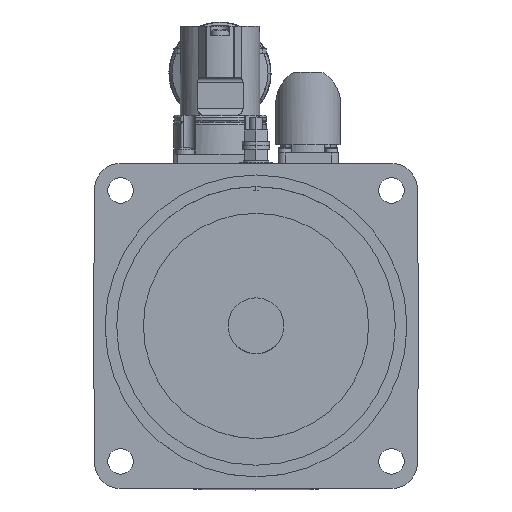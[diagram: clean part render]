
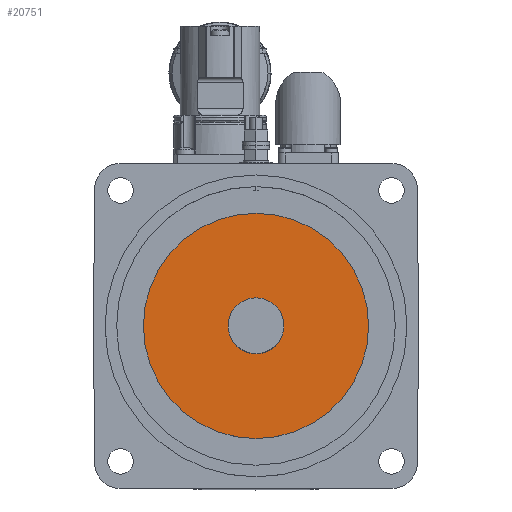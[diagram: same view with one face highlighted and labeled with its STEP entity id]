
A CAD part, top view. The second image highlights one B-rep face of the part: STEP entity #20751.
In plain terms, the highlighted planar face has unit normal (0, 0, 1).
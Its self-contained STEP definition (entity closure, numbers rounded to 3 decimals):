
#7037 = AXIS2_PLACEMENT_3D ( 'NONE', #10562, #10564, #10565 ) ;
#10562 = CARTESIAN_POINT ( 'NONE',  ( 0., 48.5, -4.5 ) ) ;
#10563 = PLANE ( 'NONE',  #7037 ) ;
#10564 = DIRECTION ( 'NONE',  ( 0., 0., -1. ) ) ;
#10565 = DIRECTION ( 'NONE',  ( -1., 0., 0. ) ) ;
#11317 = FACE_OUTER_BOUND ( 'NONE', #24307, .T. ) ;
#11322 = FACE_BOUND ( 'NONE', #24312, .T. ) ;
#13788 = AXIS2_PLACEMENT_3D ( 'NONE', #16351, #16359, #16360 ) ;
#13811 = AXIS2_PLACEMENT_3D ( 'NONE', #16445, #16446, #16447 ) ;
#13823 = AXIS2_PLACEMENT_3D ( 'NONE', #16498, #16499, #16500 ) ;
#13826 = AXIS2_PLACEMENT_3D ( 'NONE', #16511, #16512, #16513 ) ;
#15766 = CIRCLE ( 'NONE', #13788, 12. ) ;
#15805 = CIRCLE ( 'NONE', #13811, 48.5 ) ;
#15840 = CIRCLE ( 'NONE', #13823, 48.5 ) ;
#15849 = CIRCLE ( 'NONE', #13826, 12. ) ;
#16351 = CARTESIAN_POINT ( 'NONE',  ( 0., 0., -4.5 ) ) ;
#16359 = DIRECTION ( 'NONE',  ( 0., 0., 1. ) ) ;
#16360 = DIRECTION ( 'NONE',  ( -1., 0., 0. ) ) ;
#16445 = CARTESIAN_POINT ( 'NONE',  ( 0., 0., -4.5 ) ) ;
#16446 = DIRECTION ( 'NONE',  ( 0., 0., -1. ) ) ;
#16447 = DIRECTION ( 'NONE',  ( -1., 0., 0. ) ) ;
#16498 = CARTESIAN_POINT ( 'NONE',  ( 0., 0., -4.5 ) ) ;
#16499 = DIRECTION ( 'NONE',  ( 0., 0., -1. ) ) ;
#16500 = DIRECTION ( 'NONE',  ( -1., 0., 0. ) ) ;
#16511 = CARTESIAN_POINT ( 'NONE',  ( 0., 0., -4.5 ) ) ;
#16512 = DIRECTION ( 'NONE',  ( 0., 0., 1. ) ) ;
#16513 = DIRECTION ( 'NONE',  ( -1., 0., 0. ) ) ;
#18360 = VERTEX_POINT ( 'NONE', #28453 ) ;
#18362 = VERTEX_POINT ( 'NONE', #28455 ) ;
#18368 = VERTEX_POINT ( 'NONE', #28461 ) ;
#18369 = VERTEX_POINT ( 'NONE', #28462 ) ;
#20751 = ADVANCED_FACE ( 'NONE', ( #11317, #11322 ), #10563, .F. ) ;
#22930 = EDGE_CURVE ( 'NONE', #18369, #18368, #15766, .T. ) ;
#22962 = EDGE_CURVE ( 'NONE', #18362, #18360, #15805, .T. ) ;
#22984 = EDGE_CURVE ( 'NONE', #18360, #18362, #15840, .T. ) ;
#22989 = EDGE_CURVE ( 'NONE', #18368, #18369, #15849, .T. ) ;
#23924 = ORIENTED_EDGE ( 'NONE', *, *, #22962, .F. ) ;
#23925 = ORIENTED_EDGE ( 'NONE', *, *, #22984, .F. ) ;
#23926 = ORIENTED_EDGE ( 'NONE', *, *, #22989, .F. ) ;
#23927 = ORIENTED_EDGE ( 'NONE', *, *, #22930, .F. ) ;
#24307 = EDGE_LOOP ( 'NONE', ( #23924, #23925 ) ) ;
#24312 = EDGE_LOOP ( 'NONE', ( #23926, #23927 ) ) ;
#28453 = CARTESIAN_POINT ( 'NONE',  ( 48.5, 0., -4.5 ) ) ;
#28455 = CARTESIAN_POINT ( 'NONE',  ( -48.5, 0., -4.5 ) ) ;
#28461 = CARTESIAN_POINT ( 'NONE',  ( -12., 0., -4.5 ) ) ;
#28462 = CARTESIAN_POINT ( 'NONE',  ( 12., 0., -4.5 ) ) ;
